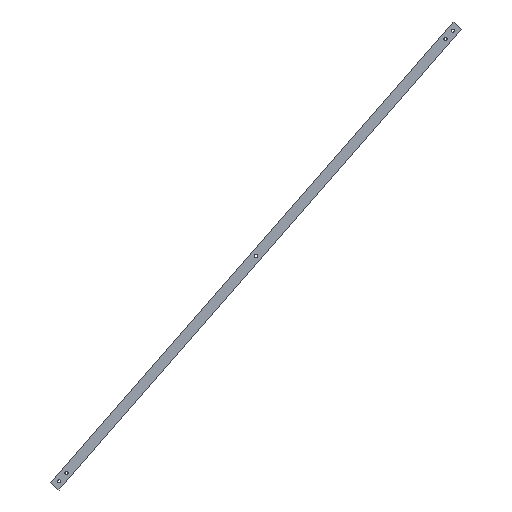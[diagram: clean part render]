
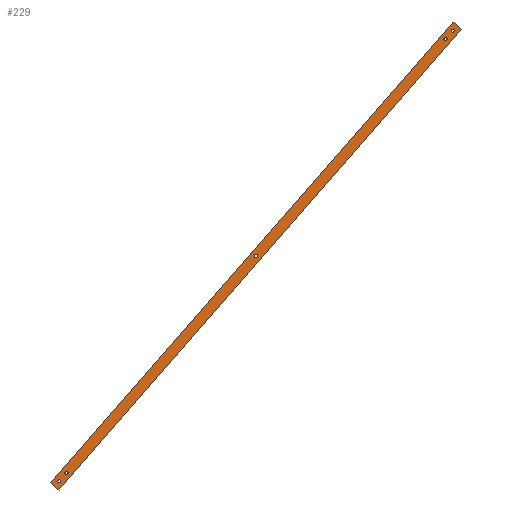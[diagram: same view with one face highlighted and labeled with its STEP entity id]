
A CAD part, front view. The second image highlights one B-rep face of the part: STEP entity #229.
In plain terms, the highlighted planar face has unit normal (0, -1, 0).
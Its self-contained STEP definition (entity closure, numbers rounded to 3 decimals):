
#7 = CARTESIAN_POINT ( 'NONE',  ( 9115.251, 5., 131.963 ) ) ;
#11 = EDGE_LOOP ( 'NONE', ( #134, #16 ) ) ;
#15 = VERTEX_POINT ( 'NONE', #315 ) ;
#16 = ORIENTED_EDGE ( 'NONE', *, *, #286, .F. ) ;
#20 = EDGE_CURVE ( 'NONE', #497, #525, #614, .T. ) ;
#26 = AXIS2_PLACEMENT_3D ( 'NONE', #364, #188, #301 ) ;
#28 = CARTESIAN_POINT ( 'NONE',  ( 10000., 5., 1145. ) ) ;
#39 = EDGE_CURVE ( 'NONE', #677, #132, #105, .T. ) ;
#40 = VERTEX_POINT ( 'NONE', #89 ) ;
#60 = ORIENTED_EDGE ( 'NONE', *, *, #698, .F. ) ;
#66 = CARTESIAN_POINT ( 'NONE',  ( 9148.142, 5., 169.622 ) ) ;
#68 = CARTESIAN_POINT ( 'NONE',  ( 9148.142, 5., 176.622 ) ) ;
#70 = ORIENTED_EDGE ( 'NONE', *, *, #250, .F. ) ;
#71 = FACE_BOUND ( 'NONE', #704, .T. ) ;
#79 = DIRECTION ( 'NONE',  ( 0., -1., 0. ) ) ;
#89 = CARTESIAN_POINT ( 'NONE',  ( 9115.251, 5., 138.963 ) ) ;
#93 = AXIS2_PLACEMENT_3D ( 'NONE', #522, #701, #514 ) ;
#95 = DIRECTION ( 'NONE',  ( 0.753, 0., -0.658 ) ) ;
#105 = LINE ( 'NONE', #212, #533 ) ;
#121 = DIRECTION ( 'NONE',  ( -0.658, 0., -0.753 ) ) ;
#132 = VERTEX_POINT ( 'NONE', #394 ) ;
#133 = DIRECTION ( 'NONE',  ( 0., 1., 0. ) ) ;
#134 = ORIENTED_EDGE ( 'NONE', *, *, #683, .F. ) ;
#137 = CARTESIAN_POINT ( 'NONE',  ( 9115.251, 5., 131.963 ) ) ;
#146 = DIRECTION ( 'NONE',  ( 0., -1., 0. ) ) ;
#152 = ORIENTED_EDGE ( 'NONE', *, *, #632, .T. ) ;
#154 = CIRCLE ( 'NONE', #676, 7. ) ;
#160 = VERTEX_POINT ( 'NONE', #620 ) ;
#161 = DIRECTION ( 'NONE',  ( 0., 0., 1. ) ) ;
#165 = EDGE_LOOP ( 'NONE', ( #319, #421 ) ) ;
#182 = EDGE_LOOP ( 'NONE', ( #407, #687 ) ) ;
#186 = ORIENTED_EDGE ( 'NONE', *, *, #39, .T. ) ;
#188 = DIRECTION ( 'NONE',  ( 0., -1., 0. ) ) ;
#190 = DIRECTION ( 'NONE',  ( 0., 0., 1. ) ) ;
#193 = CIRCLE ( 'NONE', #93, 7. ) ;
#194 = CIRCLE ( 'NONE', #26, 7. ) ;
#196 = FACE_BOUND ( 'NONE', #11, .T. ) ;
#197 = VERTEX_POINT ( 'NONE', #467 ) ;
#200 = FACE_BOUND ( 'NONE', #453, .T. ) ;
#202 = CARTESIAN_POINT ( 'NONE',  ( 9076.687, 5., 125.812 ) ) ;
#203 = ORIENTED_EDGE ( 'NONE', *, *, #613, .F. ) ;
#210 = DIRECTION ( 'NONE',  ( 0., 0., 1. ) ) ;
#211 = AXIS2_PLACEMENT_3D ( 'NONE', #468, #736, #290 ) ;
#212 = CARTESIAN_POINT ( 'NONE',  ( 9076.687, 5., 125.812 ) ) ;
#227 = VERTEX_POINT ( 'NONE', #311 ) ;
#229 = ADVANCED_FACE ( 'NONE', ( #694, #200, #71, #196, #418, #297 ), #586, .F. ) ;
#230 = CARTESIAN_POINT ( 'NONE',  ( 10923.313, 5., 2164.188 ) ) ;
#231 = AXIS2_PLACEMENT_3D ( 'NONE', #137, #266, #635 ) ;
#250 = EDGE_CURVE ( 'NONE', #197, #227, #193, .T. ) ;
#261 = DIRECTION ( 'NONE',  ( 0., 0., -1. ) ) ;
#263 = CARTESIAN_POINT ( 'NONE',  ( 10851.858, 5., 2120.378 ) ) ;
#266 = DIRECTION ( 'NONE',  ( 0., -1., 0. ) ) ;
#271 = VERTEX_POINT ( 'NONE', #68 ) ;
#277 = DIRECTION ( 'NONE',  ( 0., 0., -1. ) ) ;
#286 = EDGE_CURVE ( 'NONE', #40, #15, #298, .T. ) ;
#290 = DIRECTION ( 'NONE',  ( 0., 0., 1. ) ) ;
#297 = FACE_OUTER_BOUND ( 'NONE', #499, .T. ) ;
#298 = CIRCLE ( 'NONE', #553, 7. ) ;
#299 = EDGE_CURVE ( 'NONE', #271, #344, #154, .T. ) ;
#301 = DIRECTION ( 'NONE',  ( 0., 0., -1. ) ) ;
#308 = VERTEX_POINT ( 'NONE', #573 ) ;
#310 = ORIENTED_EDGE ( 'NONE', *, *, #299, .F. ) ;
#311 = CARTESIAN_POINT ( 'NONE',  ( 10884.749, 5., 2165.037 ) ) ;
#315 = CARTESIAN_POINT ( 'NONE',  ( 9115.251, 5., 124.963 ) ) ;
#316 = DIRECTION ( 'NONE',  ( 0., 0., -1. ) ) ;
#319 = ORIENTED_EDGE ( 'NONE', *, *, #440, .F. ) ;
#325 = EDGE_CURVE ( 'NONE', #525, #497, #511, .T. ) ;
#329 = DIRECTION ( 'NONE',  ( 0., 0., -1. ) ) ;
#344 = VERTEX_POINT ( 'NONE', #695 ) ;
#363 = DIRECTION ( 'NONE',  ( 0., -1., 0. ) ) ;
#364 = CARTESIAN_POINT ( 'NONE',  ( 10000., 5., 1145. ) ) ;
#377 = CARTESIAN_POINT ( 'NONE',  ( 10851.858, 5., 2120.378 ) ) ;
#386 = DIRECTION ( 'NONE',  ( 0., -1., 0. ) ) ;
#391 = ORIENTED_EDGE ( 'NONE', *, *, #393, .F. ) ;
#393 = EDGE_CURVE ( 'NONE', #629, #160, #441, .T. ) ;
#394 = CARTESIAN_POINT ( 'NONE',  ( 9114.347, 5., 92.922 ) ) ;
#396 = AXIS2_PLACEMENT_3D ( 'NONE', #66, #146, #329 ) ;
#399 = LINE ( 'NONE', #230, #504 ) ;
#407 = ORIENTED_EDGE ( 'NONE', *, *, #20, .F. ) ;
#409 = AXIS2_PLACEMENT_3D ( 'NONE', #692, #133, #190 ) ;
#410 = VECTOR ( 'NONE', #95, 1000. ) ;
#418 = FACE_BOUND ( 'NONE', #165, .T. ) ;
#421 = ORIENTED_EDGE ( 'NONE', *, *, #665, .F. ) ;
#425 = CIRCLE ( 'NONE', #636, 7. ) ;
#427 = DIRECTION ( 'NONE',  ( 0.753, 0., -0.658 ) ) ;
#433 = DIRECTION ( 'NONE',  ( 0., -1., 0. ) ) ;
#434 = CARTESIAN_POINT ( 'NONE',  ( 10851.858, 5., 2127.378 ) ) ;
#437 = AXIS2_PLACEMENT_3D ( 'NONE', #377, #433, #161 ) ;
#438 = CIRCLE ( 'NONE', #231, 7. ) ;
#440 = EDGE_CURVE ( 'NONE', #308, #599, #425, .T. ) ;
#441 = LINE ( 'NONE', #603, #410 ) ;
#453 = EDGE_LOOP ( 'NONE', ( #70, #685 ) ) ;
#467 = CARTESIAN_POINT ( 'NONE',  ( 10884.749, 5., 2151.037 ) ) ;
#468 = CARTESIAN_POINT ( 'NONE',  ( 10884.749, 5., 2158.037 ) ) ;
#477 = CARTESIAN_POINT ( 'NONE',  ( 9148.142, 5., 169.622 ) ) ;
#479 = DIRECTION ( 'NONE',  ( 0., -1., 0. ) ) ;
#497 = VERTEX_POINT ( 'NONE', #571 ) ;
#499 = EDGE_LOOP ( 'NONE', ( #186, #203, #391, #152 ) ) ;
#502 = AXIS2_PLACEMENT_3D ( 'NONE', #263, #479, #210 ) ;
#504 = VECTOR ( 'NONE', #510, 1000. ) ;
#510 = DIRECTION ( 'NONE',  ( -0.658, 0., -0.753 ) ) ;
#511 = CIRCLE ( 'NONE', #437, 7. ) ;
#514 = DIRECTION ( 'NONE',  ( 0., 0., 1. ) ) ;
#516 = CARTESIAN_POINT ( 'NONE',  ( 10885.653, 5., 2197.078 ) ) ;
#522 = CARTESIAN_POINT ( 'NONE',  ( 10884.749, 5., 2158.037 ) ) ;
#525 = VERTEX_POINT ( 'NONE', #434 ) ;
#533 = VECTOR ( 'NONE', #427, 1000. ) ;
#553 = AXIS2_PLACEMENT_3D ( 'NONE', #7, #363, #261 ) ;
#554 = CIRCLE ( 'NONE', #211, 7. ) ;
#571 = CARTESIAN_POINT ( 'NONE',  ( 10851.858, 5., 2113.378 ) ) ;
#573 = CARTESIAN_POINT ( 'NONE',  ( 10000., 5., 1138. ) ) ;
#586 = PLANE ( 'NONE',  #409 ) ;
#595 = EDGE_CURVE ( 'NONE', #227, #197, #554, .T. ) ;
#599 = VERTEX_POINT ( 'NONE', #729 ) ;
#603 = CARTESIAN_POINT ( 'NONE',  ( 10885.653, 5., 2197.078 ) ) ;
#613 = EDGE_CURVE ( 'NONE', #160, #132, #399, .T. ) ;
#614 = CIRCLE ( 'NONE', #502, 7. ) ;
#620 = CARTESIAN_POINT ( 'NONE',  ( 10923.313, 5., 2164.188 ) ) ;
#629 = VERTEX_POINT ( 'NONE', #699 ) ;
#632 = EDGE_CURVE ( 'NONE', #629, #677, #647, .T. ) ;
#635 = DIRECTION ( 'NONE',  ( 0., 0., -1. ) ) ;
#636 = AXIS2_PLACEMENT_3D ( 'NONE', #28, #386, #277 ) ;
#647 = LINE ( 'NONE', #516, #678 ) ;
#665 = EDGE_CURVE ( 'NONE', #599, #308, #194, .T. ) ;
#676 = AXIS2_PLACEMENT_3D ( 'NONE', #477, #79, #316 ) ;
#677 = VERTEX_POINT ( 'NONE', #202 ) ;
#678 = VECTOR ( 'NONE', #121, 1000. ) ;
#683 = EDGE_CURVE ( 'NONE', #15, #40, #438, .T. ) ;
#685 = ORIENTED_EDGE ( 'NONE', *, *, #595, .F. ) ;
#687 = ORIENTED_EDGE ( 'NONE', *, *, #325, .F. ) ;
#692 = CARTESIAN_POINT ( 'NONE',  ( 10885.653, 5., 2197.078 ) ) ;
#694 = FACE_BOUND ( 'NONE', #182, .T. ) ;
#695 = CARTESIAN_POINT ( 'NONE',  ( 9148.142, 5., 162.622 ) ) ;
#698 = EDGE_CURVE ( 'NONE', #344, #271, #718, .T. ) ;
#699 = CARTESIAN_POINT ( 'NONE',  ( 10885.653, 5., 2197.078 ) ) ;
#701 = DIRECTION ( 'NONE',  ( 0., -1., 0. ) ) ;
#704 = EDGE_LOOP ( 'NONE', ( #60, #310 ) ) ;
#718 = CIRCLE ( 'NONE', #396, 7. ) ;
#729 = CARTESIAN_POINT ( 'NONE',  ( 10000., 5., 1152. ) ) ;
#736 = DIRECTION ( 'NONE',  ( 0., -1., 0. ) ) ;
